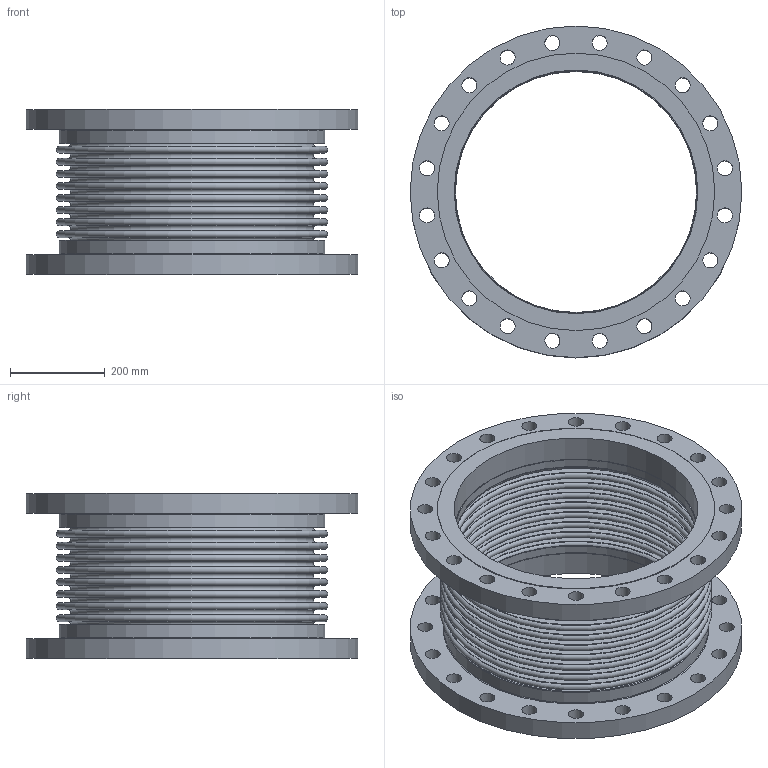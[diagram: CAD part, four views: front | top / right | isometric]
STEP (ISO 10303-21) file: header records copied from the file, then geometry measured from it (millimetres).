
FILE_DESCRIPTION(/* description */ ('EXPANSION JOINT,SINGLE, FLANGED ENDS,20 INCH','CAx-IF Rec.Pracs.---Representation and Presentation of Product Manufacturing Information (PMI)---4.0---2014-10-13'),/* implementation_level */ '2;1');
FILE_NAME(/* name */ 'US-20-8-150S-FLANGED ENDS.stp',/* time_stamp */ '2026-07-31T17:40:33-05:00',/* author */ ('Guadalupe'),/* organization */ (''),/* preprocessor_version */ 'ST-DEVELOPER v20.1',/* originating_system */ 'Autodesk Inventor 2026',/* authorisation */ '');
FILE_SCHEMA (('AP242_MANAGED_MODEL_BASED_3D_ENGINEERING_MIM_LF { 1 0 10303 442 2 1 4 }'));
Length unit declared in the file: inch
Products named in the file (3): 20-150S; 20-150S-02; 20-150S-01
Assembly tree (3 placements, depth 2):
  20-150S
    20-150S-02  x2
    20-150S-01
Bounding box: 698.5 x 698.5 x 349 mm (x, y, z)
Volume: 17373259.7 mm3; surface area: 3499391.1 mm2
Topology: 5 solids, 5 shells, 136 faces, 270 edges, 180 vertices
Faces by surface type: cylinder 52, plane 46, torus 38
Full cylindrical faces by diameter (mm): 31.75 x40, 508 x2, 511.048 x2, 513.08 x2, 558.8 x2, 584.2 x2, 698.5 x2
Entity records: 3026 total; most frequent: DIRECTION 606, CARTESIAN_POINT 449, ORIENTED_EDGE 384, AXIS2_PLACEMENT_3D 289, EDGE_CURVE 192, EDGE_LOOP 188, CIRCLE 164, VERTEX_POINT 128
